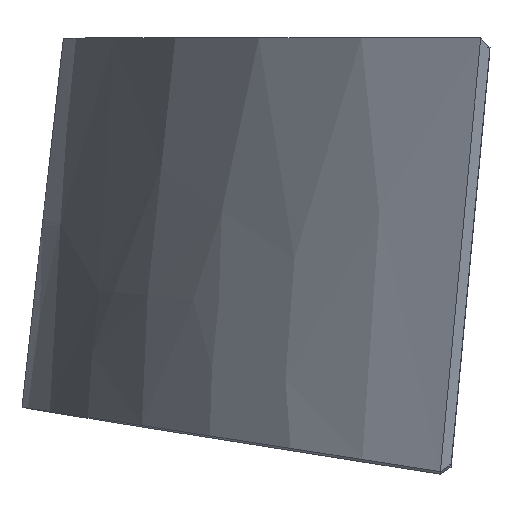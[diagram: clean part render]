
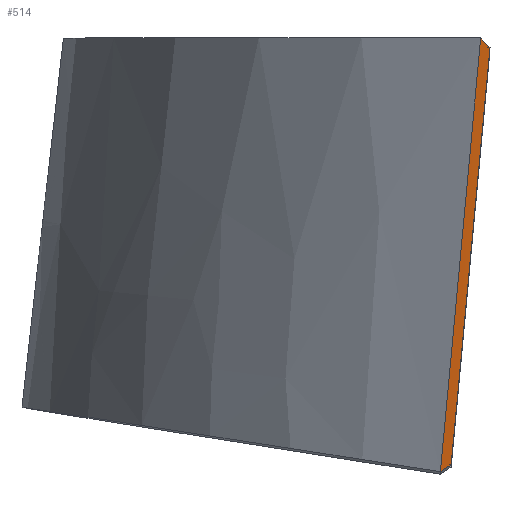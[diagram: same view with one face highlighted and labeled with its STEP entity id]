
A CAD part, top view. The second image highlights one B-rep face of the part: STEP entity #514.
In plain terms, the highlighted free-form (B-spline) face has degree [1, 3] with [2, 4] control points.
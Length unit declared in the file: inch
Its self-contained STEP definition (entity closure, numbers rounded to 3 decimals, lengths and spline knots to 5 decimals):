
#4 = EDGE_CURVE ( 'NONE', #1660, #2516, #2590, .T. ) ;
#5 = CARTESIAN_POINT ( 'NONE',  ( 103.78663, -5.41547, 27.21966 ) ) ;
#21 = CARTESIAN_POINT ( 'NONE',  ( 102.78145, -16.22378, 27.49127 ) ) ;
#124 = CARTESIAN_POINT ( 'NONE',  ( 102.78145, -16.22378, 27.49127 ) ) ;
#187 = CARTESIAN_POINT ( 'NONE',  ( 104.28921, -0.01132, 27.08383 ) ) ;
#273 = VERTEX_POINT ( 'NONE', #1275 ) ;
#328 = CARTESIAN_POINT ( 'NONE',  ( 104.52028, -0.25204, 26.65752 ) ) ;
#355 = CARTESIAN_POINT ( 'NONE',  ( 104.40475, -0.13168, 26.87068 ) ) ;
#424 = EDGE_CURVE ( 'NONE', #273, #2208, #1688, .T. ) ;
#514 = ADVANCED_FACE ( 'NONE', ( #1505 ), #2024, .T. ) ;
#531 = ORIENTED_EDGE ( 'NONE', *, *, #2072, .T. ) ;
#676 = CARTESIAN_POINT ( 'NONE',  ( 102.78145, -16.22378, 27.49127 ) ) ;
#811 = CARTESIAN_POINT ( 'NONE',  ( 104.63579, -0.3724, 26.44436 ) ) ;
#813 = ORIENTED_EDGE ( 'NONE', *, *, #4, .F. ) ;
#899 = CARTESIAN_POINT ( 'NONE',  ( 104.66466, -0.0625, 26.4366 ) ) ;
#985 = CARTESIAN_POINT ( 'NONE',  ( 102.91535, -16.13747, 27.27243 ) ) ;
#1116 = B_SPLINE_CURVE_WITH_KNOTS ( 'NONE', 3,
 ( #2241, #328, #355, #2045 ),
 .UNSPECIFIED., .F., .F.,
 ( 4, 4 ),
 ( 0., 1. ),
 .UNSPECIFIED. ) ;
#1211 = CARTESIAN_POINT ( 'NONE',  ( 103.18322, -15.96485, 26.83479 ) ) ;
#1275 = CARTESIAN_POINT ( 'NONE',  ( 103.18322, -15.96485, 26.83479 ) ) ;
#1303 = CARTESIAN_POINT ( 'NONE',  ( 103.28404, -10.81963, 27.35547 ) ) ;
#1494 = CARTESIAN_POINT ( 'NONE',  ( 103.66741, -10.76736, 26.70464 ) ) ;
#1505 = FACE_OUTER_BOUND ( 'NONE', #2408, .T. ) ;
#1520 = ORIENTED_EDGE ( 'NONE', *, *, #424, .T. ) ;
#1562 = CARTESIAN_POINT ( 'NONE',  ( 103.28404, -10.81963, 27.35547 ) ) ;
#1575 = CARTESIAN_POINT ( 'NONE',  ( 104.28921, -0.01132, 27.08383 ) ) ;
#1660 = VERTEX_POINT ( 'NONE', #21 ) ;
#1688 = B_SPLINE_CURVE_WITH_KNOTS ( 'NONE', 3,
 ( #2674, #1494, #2353, #2141 ),
 .UNSPECIFIED., .F., .F.,
 ( 4, 4 ),
 ( 0.01912, 0.98089 ),
 .UNSPECIFIED. ) ;
#1754 = ORIENTED_EDGE ( 'NONE', *, *, #2200, .T. ) ;
#1833 = CARTESIAN_POINT ( 'NONE',  ( 103.04928, -16.05116, 27.05361 ) ) ;
#2024 = B_SPLINE_SURFACE_WITH_KNOTS ( 'NONE', 1, 3, ( 
 ( #2592, #1303, #5, #187 ),
 ( #2366, #2171, #2381, #899 ) ),
 .UNSPECIFIED., .F., .F., .F.,
 ( 2, 2 ),
 ( 4, 4 ),
 ( 0., 1. ),
 ( -0.20685, 0.20685 ),
 .UNSPECIFIED. ) ;
#2042 = CARTESIAN_POINT ( 'NONE',  ( 104.28921, -0.01132, 27.08383 ) ) ;
#2045 = CARTESIAN_POINT ( 'NONE',  ( 104.28921, -0.01132, 27.08383 ) ) ;
#2072 = EDGE_CURVE ( 'NONE', #2208, #2516, #1116, .T. ) ;
#2141 = CARTESIAN_POINT ( 'NONE',  ( 104.63579, -0.3724, 26.44436 ) ) ;
#2171 = CARTESIAN_POINT ( 'NONE',  ( 103.65778, -10.87068, 26.70723 ) ) ;
#2183 = CARTESIAN_POINT ( 'NONE',  ( 103.78663, -5.41547, 27.21966 ) ) ;
#2200 = EDGE_CURVE ( 'NONE', #1660, #273, #2761, .T. ) ;
#2208 = VERTEX_POINT ( 'NONE', #811 ) ;
#2241 = CARTESIAN_POINT ( 'NONE',  ( 104.63579, -0.3724, 26.44436 ) ) ;
#2353 = CARTESIAN_POINT ( 'NONE',  ( 104.1516, -5.56988, 26.5745 ) ) ;
#2366 = CARTESIAN_POINT ( 'NONE',  ( 103.15435, -16.27476, 26.84255 ) ) ;
#2381 = CARTESIAN_POINT ( 'NONE',  ( 104.16122, -5.46659, 26.57191 ) ) ;
#2408 = EDGE_LOOP ( 'NONE', ( #813, #1754, #1520, #531 ) ) ;
#2516 = VERTEX_POINT ( 'NONE', #2042 ) ;
#2590 = B_SPLINE_CURVE_WITH_KNOTS ( 'NONE', 3,
 ( #676, #1562, #2183, #1575 ),
 .UNSPECIFIED., .F., .F.,
 ( 4, 4 ),
 ( 0., 1. ),
 .UNSPECIFIED. ) ;
#2592 = CARTESIAN_POINT ( 'NONE',  ( 102.78145, -16.22378, 27.49127 ) ) ;
#2674 = CARTESIAN_POINT ( 'NONE',  ( 103.18322, -15.96485, 26.83479 ) ) ;
#2761 = B_SPLINE_CURVE_WITH_KNOTS ( 'NONE', 3,
 ( #124, #985, #1833, #1211 ),
 .UNSPECIFIED., .F., .F.,
 ( 4, 4 ),
 ( 0., 1. ),
 .UNSPECIFIED. ) ;
